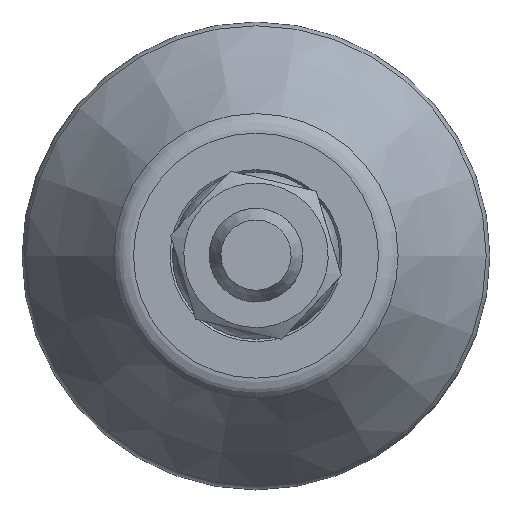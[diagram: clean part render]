
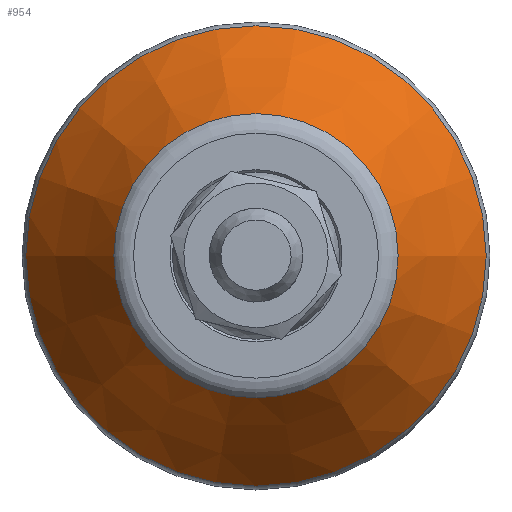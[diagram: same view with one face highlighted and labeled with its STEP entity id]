
A CAD part, top view. The second image highlights one B-rep face of the part: STEP entity #954.
In plain terms, the highlighted conical face has half-angle 33 degrees and reference radius 15.913 mm.
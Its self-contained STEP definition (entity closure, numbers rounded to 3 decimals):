
#954=ADVANCED_FACE('',(#2088,#2090),#2092,.T.);
#2088=FACE_BOUND('',#2089,.T.);
#2089=EDGE_LOOP('',(#3049,#3050));
#2090=FACE_BOUND('',#2091,.T.);
#2091=EDGE_LOOP('',(#3051,#3052));
#2092=CONICAL_SURFACE('',#2093,15.913,0.576);
#2093=AXIS2_PLACEMENT_3D('',#2094,#2095,#2096);
#2094=CARTESIAN_POINT('',(0.,0.,11.293));
#2095=DIRECTION('',(0.,0.,-1.));
#2096=DIRECTION('',(1.,0.,0.));
#3049=ORIENTED_EDGE('',*,*,#3600,.T.);
#3050=ORIENTED_EDGE('',*,*,#3599,.T.);
#3051=ORIENTED_EDGE('',*,*,#3603,.F.);
#3052=ORIENTED_EDGE('',*,*,#3604,.F.);
#3599=EDGE_CURVE('',#4171,#4172,#4173,.T.);
#3600=EDGE_CURVE('',#4172,#4171,#4174,.T.);
#3603=EDGE_CURVE('',#4179,#4180,#4181,.T.);
#3604=EDGE_CURVE('',#4180,#4179,#4182,.T.);
#4171=VERTEX_POINT('',#7163);
#4172=VERTEX_POINT('',#7164);
#4173=CIRCLE('',#7165,19.677);
#4174=CIRCLE('',#7169,19.677);
#4179=VERTEX_POINT('',#7183);
#4180=VERTEX_POINT('',#7184);
#4181=CIRCLE('',#7185,12.149);
#4182=CIRCLE('',#7189,12.149);
#7163=CARTESIAN_POINT('',(-19.677,0.,5.497));
#7164=CARTESIAN_POINT('',(19.677,0.,5.497));
#7165=AXIS2_PLACEMENT_3D('',#7166,#7167,#7168);
#7166=CARTESIAN_POINT('',(0.,0.,5.497));
#7167=DIRECTION('',(0.,0.,1.));
#7168=DIRECTION('',(-1.,0.,0.));
#7169=AXIS2_PLACEMENT_3D('',#7170,#7171,#7172);
#7170=CARTESIAN_POINT('',(0.,0.,5.497));
#7171=DIRECTION('',(0.,0.,1.));
#7172=DIRECTION('',(1.,0.,0.));
#7183=CARTESIAN_POINT('',(-12.149,0.,17.089));
#7184=CARTESIAN_POINT('',(12.149,0.,17.089));
#7185=AXIS2_PLACEMENT_3D('',#7186,#7187,#7188);
#7186=CARTESIAN_POINT('',(0.,0.,17.089));
#7187=DIRECTION('',(0.,0.,1.));
#7188=DIRECTION('',(-1.,0.,0.));
#7189=AXIS2_PLACEMENT_3D('',#7190,#7191,#7192);
#7190=CARTESIAN_POINT('',(0.,0.,17.089));
#7191=DIRECTION('',(0.,0.,1.));
#7192=DIRECTION('',(1.,0.,0.));
